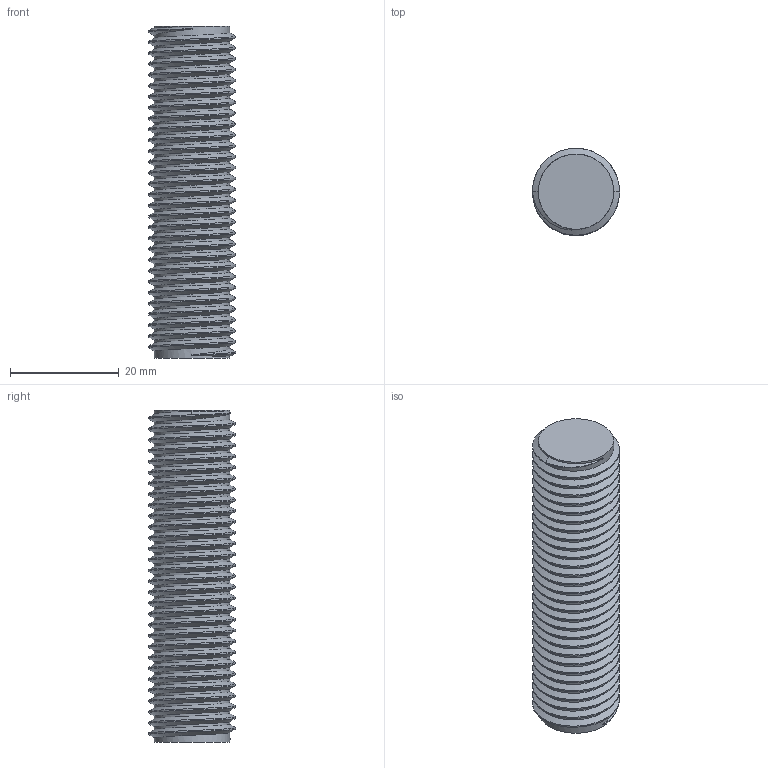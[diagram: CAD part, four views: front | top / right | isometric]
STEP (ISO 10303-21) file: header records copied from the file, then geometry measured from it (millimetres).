
FILE_DESCRIPTION(('Mechanical CAD reference from nasji.com'),'2;1');
FILE_NAME('NASJI.step','',(''),(''),'','NASJI distribution','');
FILE_SCHEMA(('AUTOMOTIVE_DESIGN { 1 0 10303 214 1 1 1 1 }'));
Products named in the file (1): Open CASCADE STEP translator 7.8 12
Bounding box: 16 x 15.99 x 61 mm (x, y, z)
Volume: 10465.3 mm3; surface area: 4873.2 mm2
Topology: 1 solids, 1 shells, 542 faces, 1492 edges, 952 vertices
Faces by surface type: bspline 508, cylinder 30, plane 4
Full cylindrical faces by diameter (mm): 13.835 x30
Entity records: 65937 total; most frequent: CARTESIAN_POINT 44834, ORIENTED_EDGE 2984, PCURVE 2984, DEFINITIONAL_REPRESENTATION 2984, B_SPLINE_CURVE_WITH_KNOTS 2784, EDGE_CURVE 1492, SURFACE_CURVE 1490, DIRECTION 1290
